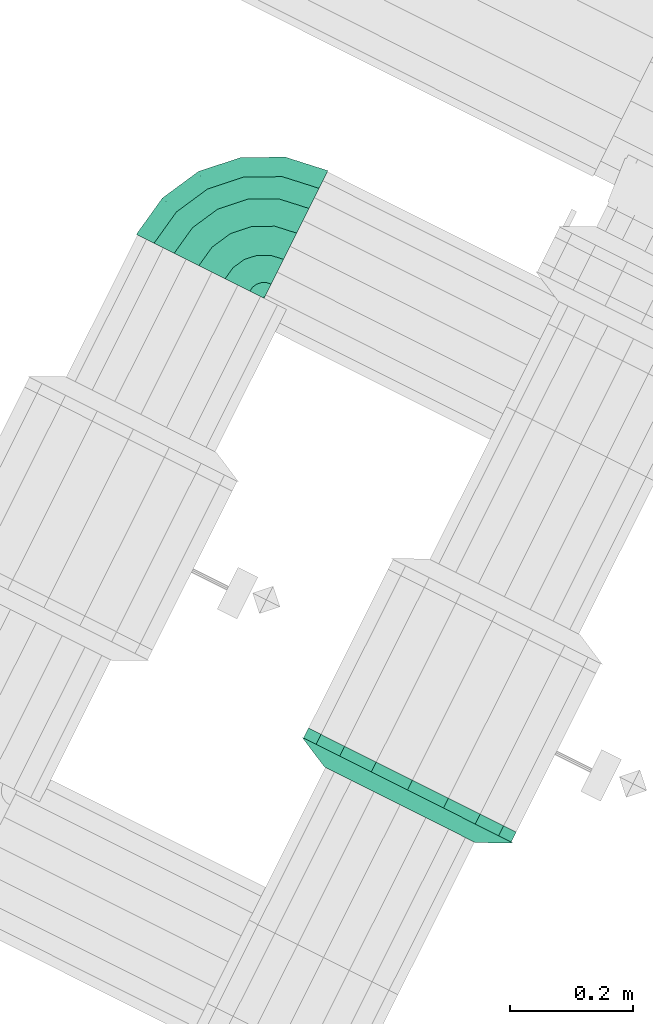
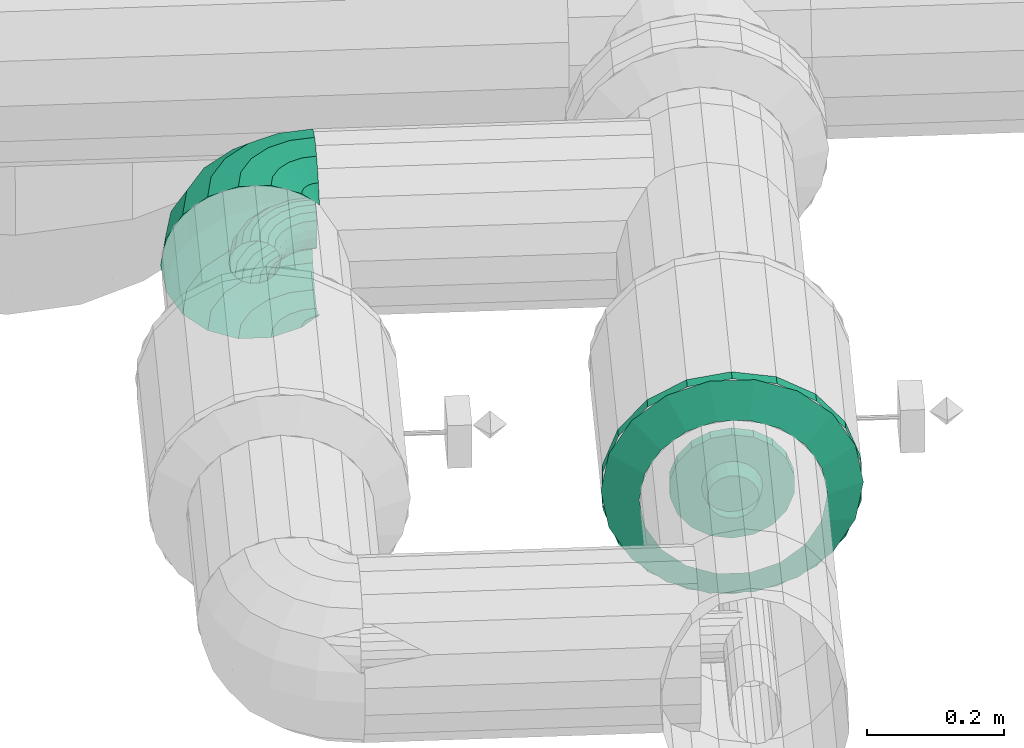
# One storey, part 40 of 152: 1 flow fitting, 1 flow segment.
"""IFC2X3 building model written with IfcOpenShell, lengths in metres."""

from ifc_helpers import new_model, si_unit, derived_unit, direction, frame, origin, place, context, subcontext, project, spatial, face_set, surface_model, source, transform, mapped, material, type_object, type_shapes, element, save


model = new_model("IFC2X3")

# Units and contexts
model_context = context("Model", 3, precision=5.2338327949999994e-05, world=origin(), true_north=direction((0.0, 1.0)))
body_context = subcontext(model_context, "Body", "Model", "MODEL_VIEW")
ifc_project = project(units=[si_unit("LENGTHUNIT", "METRE"), si_unit("AREAUNIT", "SQUARE_METRE"), si_unit("VOLUMEUNIT", "CUBIC_METRE"), si_unit("MASSUNIT", "GRAM", prefix="KILO"), si_unit("PLANEANGLEUNIT", "RADIAN"), derived_unit("THERMALTRANSMITTANCEUNIT", [(si_unit("MASSUNIT", "GRAM", prefix="KILO"), 1), (si_unit("THERMODYNAMICTEMPERATUREUNIT", "KELVIN"), -1), (si_unit("TIMEUNIT", "SECOND"), -3)])], contexts=[model_context])

# Site, building, storey
site_placement = place(None, frame((0.0, 0.0, 0.0), z_axis=(0.0, 0.0, 1.0), x_axis=(0.8939966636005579, -0.4480736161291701, 0.0)))
site = spatial("IfcSite", under=ifc_project, at=site_placement, Name="Default", CompositionType="ELEMENT")
building_placement = place(site_placement, origin())
building = spatial("IfcBuilding", under=site, at=building_placement, CompositionType="ELEMENT")
storey_placement = place(building_placement, frame((0.0, 0.0, 2.7499999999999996)))
storey = spatial("IfcBuildingStorey", under=building, at=storey_placement, Name="1. Obergeschoss", CompositionType="ELEMENT", Elevation=2.7499999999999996)

# Flow segment
ifc_material = material(Name="IfcSurfaceStyle #1741")
distribution_element_type_1 = type_object("IfcDistributionElementType", Name="Rohrbogen 257273:Rohrbogen 257273", material=ifc_material)
shared_shape_1 = source(origin(), body_context, "Body", "SurfaceModel", [
    surface_model("IfcFaceBasedSurfaceModel", [(14.36173151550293, 7.4253543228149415, 5.63564089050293), (14.355219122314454, 7.384239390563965, 5.63564089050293), (14.357514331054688, 7.384239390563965, 5.648654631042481), (14.363913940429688, 7.424645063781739, 5.648654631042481), (14.38062919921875, 7.462444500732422, 5.63564089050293), (14.382486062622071, 7.4610951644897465, 5.648654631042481), (14.410064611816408, 7.491879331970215, 5.63564089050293), (14.41141336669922, 7.490022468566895, 5.648654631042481), (14.447154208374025, 7.510777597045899, 5.63564089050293), (14.447863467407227, 7.508595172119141, 5.648654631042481), (14.488269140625, 7.517289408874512, 5.63564089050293), (14.488269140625, 7.514994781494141, 5.648654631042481), (14.370197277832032, 7.422603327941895, 5.660098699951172), (14.364120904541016, 7.384239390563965, 5.660098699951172), (14.387831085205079, 7.457211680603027, 5.660098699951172), (14.415296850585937, 7.484677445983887, 5.660098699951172), (14.449905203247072, 7.502311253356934, 5.660098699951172), (14.488269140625, 7.5083876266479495, 5.660098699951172), (14.37424354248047, 7.384239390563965, 5.668592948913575), (14.37982459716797, 7.419475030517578, 5.668592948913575), (14.396021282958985, 7.4512614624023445, 5.668592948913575), (14.421246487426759, 7.4764878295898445, 5.668592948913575), (14.453032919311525, 7.492683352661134, 5.668592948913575), (14.488269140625, 7.498264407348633, 5.668592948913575), (14.386661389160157, 7.384239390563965, 5.673112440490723), (14.391634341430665, 7.415638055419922, 5.673112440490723), (14.406067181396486, 7.443962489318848, 5.673112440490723), (14.428546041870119, 7.466441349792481, 5.673112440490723), (14.456871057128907, 7.480873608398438, 5.673112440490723), (14.488269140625, 7.4858465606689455, 5.673112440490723), (14.399876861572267, 7.384239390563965, 5.673112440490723), (14.404202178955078, 7.411554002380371, 5.673112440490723), (14.416758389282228, 7.436195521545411, 5.673112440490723), (14.436313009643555, 7.455750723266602, 5.673112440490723), (14.460954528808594, 7.468305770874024, 5.673112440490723), (14.488269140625, 7.472632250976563, 5.673112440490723), (14.412293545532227, 7.384239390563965, 5.668592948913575), (14.4160130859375, 7.4077170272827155, 5.668592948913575), (14.426804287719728, 7.428896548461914, 5.668592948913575), (14.443612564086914, 7.445704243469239, 5.668592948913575), (14.46479150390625, 7.456496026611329, 5.668592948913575), (14.488269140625, 7.460214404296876, 5.668592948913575), (14.425640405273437, 7.404588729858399, 5.660098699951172), (14.422417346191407, 7.384239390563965, 5.660098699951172), (14.434993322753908, 7.42294633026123, 5.660098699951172), (14.449562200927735, 7.4375146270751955, 5.660098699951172), (14.467919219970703, 7.446868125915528, 5.660098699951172), (14.488269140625, 7.450091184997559, 5.660098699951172), (14.431923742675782, 7.402546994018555, 5.648654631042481), (14.429023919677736, 7.384239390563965, 5.648654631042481), (14.440339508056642, 7.419062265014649, 5.648654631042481), (14.453445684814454, 7.432169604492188, 5.648654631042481), (14.469960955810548, 7.440584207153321, 5.648654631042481), (14.488269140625, 7.443484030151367, 5.648654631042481), (14.43410616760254, 7.401837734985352, 5.63564089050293), (14.43131912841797, 7.384239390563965, 5.63564089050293), (14.442195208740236, 7.417713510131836, 5.63564089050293), (14.454794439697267, 7.430312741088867, 5.63564089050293), (14.47067021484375, 7.4384017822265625, 5.63564089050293), (14.488269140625, 7.441189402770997, 5.63564089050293), (14.429023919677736, 7.384239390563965, 5.622627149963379), (14.431923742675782, 7.402546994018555, 5.622627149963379), (14.440339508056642, 7.419062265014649, 5.622627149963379), (14.453445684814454, 7.432169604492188, 5.622627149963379), (14.469960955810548, 7.440584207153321, 5.622627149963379), (14.488269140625, 7.443484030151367, 5.622627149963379), (14.422417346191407, 7.384239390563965, 5.6111824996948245), (14.425640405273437, 7.404588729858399, 5.6111824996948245), (14.434993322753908, 7.42294633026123, 5.6111824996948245), (14.449562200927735, 7.4375146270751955, 5.6111824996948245), (14.467919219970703, 7.446868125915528, 5.6111824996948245), (14.488269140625, 7.450091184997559, 5.6111824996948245), (14.4160130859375, 7.4077170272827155, 5.602688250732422), (14.412293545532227, 7.384239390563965, 5.602688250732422), (14.426804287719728, 7.428896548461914, 5.602688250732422), (14.443612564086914, 7.445704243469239, 5.602688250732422), (14.46479150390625, 7.456496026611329, 5.602688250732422), (14.488269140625, 7.460214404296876, 5.602688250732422), (14.404202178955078, 7.411554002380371, 5.598168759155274), (14.399876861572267, 7.384239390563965, 5.598168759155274), (14.416758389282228, 7.436195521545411, 5.598168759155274), (14.436313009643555, 7.455750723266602, 5.598168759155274), (14.460954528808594, 7.468305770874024, 5.598168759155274), (14.488269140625, 7.472632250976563, 5.598168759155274), (14.391634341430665, 7.415638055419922, 5.598168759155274), (14.386661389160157, 7.384239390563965, 5.598168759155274), (14.406067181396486, 7.443962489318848, 5.598168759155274), (14.428546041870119, 7.466441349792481, 5.598168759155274), (14.456871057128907, 7.480873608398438, 5.598168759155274), (14.488269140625, 7.4858465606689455, 5.598168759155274), (14.37424354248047, 7.384239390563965, 5.602688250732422), (14.37982459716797, 7.419475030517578, 5.602688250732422), (14.396021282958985, 7.4512614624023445, 5.602688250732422), (14.421246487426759, 7.4764878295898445, 5.602688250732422), (14.453032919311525, 7.492683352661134, 5.602688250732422), (14.488269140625, 7.498264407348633, 5.602688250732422), (14.370197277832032, 7.422603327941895, 5.6111824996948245), (14.364120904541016, 7.384239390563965, 5.6111824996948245), (14.387831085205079, 7.457211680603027, 5.6111824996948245), (14.415296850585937, 7.484677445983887, 5.6111824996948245), (14.449905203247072, 7.502311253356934, 5.6111824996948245), (14.488269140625, 7.5083876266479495, 5.6111824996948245), (14.357514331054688, 7.384239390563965, 5.622627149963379), (14.363913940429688, 7.424645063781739, 5.622627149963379), (14.382486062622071, 7.4610951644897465, 5.622627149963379), (14.41141336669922, 7.490022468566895, 5.622627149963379), (14.447863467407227, 7.508595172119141, 5.622627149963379), (14.488269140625, 7.514994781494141, 5.622627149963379), (14.266625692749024, 7.4562559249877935, 5.63564089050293), (14.255219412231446, 7.384239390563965, 5.63564089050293), (14.274543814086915, 7.45368282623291, 5.68285661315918), (14.263544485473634, 7.384239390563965, 5.68285661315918), (14.299727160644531, 7.521222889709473, 5.63564089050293), (14.306462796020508, 7.516329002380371, 5.68285661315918), (14.351285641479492, 7.572780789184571, 5.63564089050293), (14.356179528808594, 7.566045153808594, 5.68285661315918), (14.416252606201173, 7.605882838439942, 5.63564089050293), (14.418825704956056, 7.597965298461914, 5.68285661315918), (14.488269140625, 7.61728911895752, 5.63564089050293), (14.488269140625, 7.608964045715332, 5.68285661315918), (14.287516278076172, 7.384239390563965, 5.724377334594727), (14.297342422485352, 7.446275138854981, 5.724377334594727), (14.325856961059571, 7.502238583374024, 5.724377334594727), (14.370269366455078, 7.546651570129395, 5.724377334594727), (14.426233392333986, 7.5751661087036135, 5.724377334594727), (14.488269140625, 7.58499167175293, 5.724377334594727), (14.324244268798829, 7.384239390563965, 5.755195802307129), (14.332271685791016, 7.434925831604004, 5.755195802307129), (14.355570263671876, 7.480650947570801, 5.755195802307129), (14.391857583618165, 7.51693826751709, 5.755195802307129), (14.437582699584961, 7.540236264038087, 5.755195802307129), (14.488269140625, 7.548264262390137, 5.755195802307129), (14.369297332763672, 7.384239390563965, 5.77159363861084), (14.375120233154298, 7.421004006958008, 5.77159363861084), (14.39201803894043, 7.454169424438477, 5.77159363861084), (14.418338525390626, 7.480489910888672, 5.77159363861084), (14.45150510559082, 7.497388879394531, 5.77159363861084), (14.488269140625, 7.503211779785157, 5.77159363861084), (14.417240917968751, 7.384239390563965, 5.77159363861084), (14.420717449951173, 7.406188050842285, 5.77159363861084), (14.430806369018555, 7.425988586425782, 5.77159363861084), (14.446520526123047, 7.441702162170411, 5.77159363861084), (14.466320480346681, 7.451791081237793, 5.77159363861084), (14.488269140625, 7.455267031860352, 5.77159363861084), (14.462293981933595, 7.384239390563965, 5.755195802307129), (14.463564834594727, 7.3922662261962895, 5.755195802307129), (14.467255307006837, 7.399507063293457, 5.755195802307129), (14.473001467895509, 7.405253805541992, 5.755195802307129), (14.48024288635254, 7.408943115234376, 5.755195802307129), (14.488269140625, 7.410214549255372, 5.755195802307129), (14.488269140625, 7.384239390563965, 5.733400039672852), (14.488269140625, 7.386673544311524, 5.733723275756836), (14.488269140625, 7.384239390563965, 5.537881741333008), (14.488269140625, 7.386673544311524, 5.537558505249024), (14.463564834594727, 7.3922662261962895, 5.51608597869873), (14.462293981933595, 7.384239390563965, 5.51608597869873), (14.467255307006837, 7.399507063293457, 5.51608597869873), (14.473001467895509, 7.405253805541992, 5.51608597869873), (14.48024288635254, 7.408943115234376, 5.51608597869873), (14.488269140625, 7.410214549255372, 5.51608597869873), (14.420717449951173, 7.406188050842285, 5.49968814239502), (14.417240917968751, 7.384239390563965, 5.49968814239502), (14.430806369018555, 7.425988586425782, 5.49968814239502), (14.446520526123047, 7.441702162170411, 5.49968814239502), (14.466320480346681, 7.451791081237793, 5.49968814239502), (14.488269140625, 7.455267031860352, 5.49968814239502), (14.375120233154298, 7.421004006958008, 5.49968814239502), (14.369297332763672, 7.384239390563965, 5.49968814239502), (14.39201803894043, 7.454169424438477, 5.49968814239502), (14.418338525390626, 7.480489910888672, 5.49968814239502), (14.45150510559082, 7.497388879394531, 5.49968814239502), (14.488269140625, 7.503211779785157, 5.49968814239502), (14.332271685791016, 7.434925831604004, 5.51608597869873), (14.324244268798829, 7.384239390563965, 5.51608597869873), (14.355570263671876, 7.480650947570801, 5.51608597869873), (14.391857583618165, 7.51693826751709, 5.51608597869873), (14.437582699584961, 7.540236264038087, 5.51608597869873), (14.488269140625, 7.548264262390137, 5.51608597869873), (14.297342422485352, 7.446275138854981, 5.54690386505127), (14.287516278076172, 7.384239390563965, 5.54690386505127), (14.325856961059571, 7.502238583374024, 5.54690386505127), (14.370269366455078, 7.546651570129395, 5.54690386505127), (14.426233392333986, 7.5751661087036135, 5.54690386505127), (14.488269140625, 7.58499167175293, 5.54690386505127), (14.274543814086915, 7.45368282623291, 5.58842516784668), (14.263544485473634, 7.384239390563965, 5.58842516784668), (14.306462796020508, 7.516329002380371, 5.58842516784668), (14.356179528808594, 7.566045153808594, 5.58842516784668), (14.418825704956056, 7.597965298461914, 5.58842516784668), (14.488269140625, 7.608964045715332, 5.58842516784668)], [face_set([[[0, 1, 2]], [[2, 3, 0]], [[4, 0, 3]], [[3, 5, 4]], [[6, 4, 5]], [[5, 7, 6]], [[8, 6, 7]], [[7, 9, 8]], [[10, 8, 9]], [[9, 11, 10]], [[3, 2, 12]], [[13, 12, 2]], [[5, 3, 14]], [[12, 14, 3]], [[7, 5, 15]], [[14, 15, 5]], [[9, 7, 16]], [[15, 16, 7]], [[11, 9, 17]], [[16, 17, 9]], [[12, 13, 18]], [[18, 19, 12]], [[14, 12, 19]], [[19, 20, 14]], [[15, 14, 21]], [[20, 21, 14]], [[16, 15, 22]], [[21, 22, 15]], [[17, 16, 22]], [[22, 23, 17]], [[19, 18, 24]], [[24, 25, 19]], [[20, 19, 25]], [[25, 26, 20]], [[21, 20, 27]], [[26, 27, 20]], [[22, 21, 28]], [[27, 28, 21]], [[23, 22, 29]], [[28, 29, 22]], [[25, 24, 30]], [[30, 31, 25]], [[26, 25, 31]], [[31, 32, 26]], [[27, 26, 32]], [[32, 33, 27]], [[28, 27, 33]], [[33, 34, 28]], [[29, 28, 34]], [[34, 35, 29]], [[31, 30, 36]], [[36, 37, 31]], [[32, 31, 38]], [[37, 38, 31]], [[33, 32, 39]], [[38, 39, 32]], [[34, 33, 40]], [[39, 40, 33]], [[35, 34, 41]], [[40, 41, 34]], [[37, 36, 42]], [[43, 42, 36]], [[38, 37, 42]], [[42, 44, 38]], [[39, 38, 44]], [[44, 45, 39]], [[40, 39, 45]], [[45, 46, 40]], [[41, 40, 46]], [[46, 47, 41]], [[42, 43, 48]], [[49, 48, 43]], [[44, 42, 48]], [[48, 50, 44]], [[45, 44, 51]], [[50, 51, 44]], [[46, 45, 52]], [[51, 52, 45]], [[47, 46, 53]], [[52, 53, 46]], [[48, 49, 54]], [[55, 54, 49]], [[50, 48, 54]], [[54, 56, 50]], [[51, 50, 56]], [[56, 57, 51]], [[52, 51, 57]], [[57, 58, 52]], [[53, 52, 58]], [[58, 59, 53]], [[54, 55, 60]], [[60, 61, 54]], [[56, 54, 62]], [[61, 62, 54]], [[57, 56, 63]], [[62, 63, 56]], [[58, 57, 64]], [[63, 64, 57]], [[59, 58, 65]], [[64, 65, 58]], [[61, 60, 66]], [[66, 67, 61]], [[62, 61, 68]], [[67, 68, 61]], [[63, 62, 69]], [[68, 69, 62]], [[64, 63, 69]], [[69, 70, 64]], [[65, 64, 70]], [[70, 71, 65]], [[67, 66, 72]], [[73, 72, 66]], [[68, 67, 72]], [[72, 74, 68]], [[69, 68, 75]], [[74, 75, 68]], [[70, 69, 76]], [[75, 76, 69]], [[71, 70, 77]], [[76, 77, 70]], [[72, 73, 78]], [[79, 78, 73]], [[74, 72, 78]], [[78, 80, 74]], [[75, 74, 80]], [[80, 81, 75]], [[76, 75, 81]], [[81, 82, 76]], [[77, 76, 82]], [[82, 83, 77]], [[78, 79, 84]], [[85, 84, 79]], [[80, 78, 86]], [[84, 86, 78]], [[81, 80, 87]], [[86, 87, 80]], [[82, 81, 88]], [[87, 88, 81]], [[83, 82, 89]], [[88, 89, 82]], [[84, 85, 90]], [[90, 91, 84]], [[86, 84, 91]], [[91, 92, 86]], [[87, 86, 92]], [[92, 93, 87]], [[88, 87, 93]], [[93, 94, 88]], [[89, 88, 94]], [[94, 95, 89]], [[91, 90, 96]], [[97, 96, 90]], [[92, 91, 98]], [[96, 98, 91]], [[93, 92, 98]], [[98, 99, 93]], [[94, 93, 99]], [[99, 100, 94]], [[95, 94, 101]], [[100, 101, 94]], [[96, 97, 102]], [[102, 103, 96]], [[98, 96, 103]], [[103, 104, 98]], [[99, 98, 104]], [[104, 105, 99]], [[100, 99, 105]], [[105, 106, 100]], [[101, 100, 106]], [[106, 107, 101]], [[103, 102, 0]], [[1, 0, 102]], [[104, 103, 4]], [[0, 4, 103]], [[105, 104, 6]], [[4, 6, 104]], [[106, 105, 8]], [[6, 8, 105]], [[107, 106, 10]], [[8, 10, 106]], [[108, 109, 110]], [[111, 110, 109]], [[112, 108, 113]], [[110, 113, 108]], [[114, 112, 115]], [[113, 115, 112]], [[116, 114, 117]], [[115, 117, 114]], [[118, 116, 119]], [[117, 119, 116]], [[110, 111, 120]], [[120, 121, 110]], [[113, 110, 121]], [[121, 122, 113]], [[115, 113, 122]], [[122, 123, 115]], [[117, 115, 123]], [[123, 124, 117]], [[119, 117, 124]], [[124, 125, 119]], [[121, 120, 126]], [[126, 127, 121]], [[122, 121, 127]], [[127, 128, 122]], [[123, 122, 129]], [[128, 129, 122]], [[124, 123, 130]], [[129, 130, 123]], [[125, 124, 131]], [[130, 131, 124]], [[127, 126, 132]], [[132, 133, 127]], [[128, 127, 133]], [[133, 134, 128]], [[129, 128, 135]], [[134, 135, 128]], [[130, 129, 136]], [[135, 136, 129]], [[131, 130, 137]], [[136, 137, 130]], [[133, 132, 138]], [[138, 139, 133]], [[134, 133, 139]], [[139, 140, 134]], [[135, 134, 141]], [[140, 141, 134]], [[136, 135, 142]], [[141, 142, 135]], [[137, 136, 142]], [[142, 143, 137]], [[139, 138, 144]], [[144, 145, 139]], [[140, 139, 146]], [[145, 146, 139]], [[141, 140, 147]], [[146, 147, 140]], [[142, 141, 148]], [[147, 148, 141]], [[143, 142, 148]], [[148, 149, 143]], [[150, 145, 151]], [[150, 151, 144]], [[145, 144, 151]], [[146, 145, 150]], [[147, 146, 150]], [[148, 147, 150]], [[149, 148, 150]], [[152, 153, 154]], [[155, 154, 153]], [[153, 152, 155]], [[154, 156, 152]], [[152, 156, 157]], [[157, 158, 152]], [[158, 159, 152]], [[154, 155, 160]], [[161, 160, 155]], [[156, 154, 160]], [[160, 162, 156]], [[157, 156, 162]], [[162, 163, 157]], [[158, 157, 163]], [[163, 164, 158]], [[159, 158, 165]], [[164, 165, 158]], [[160, 161, 166]], [[167, 166, 161]], [[162, 160, 168]], [[166, 168, 160]], [[163, 162, 169]], [[168, 169, 162]], [[164, 163, 169]], [[169, 170, 164]], [[165, 164, 171]], [[170, 171, 164]], [[166, 167, 172]], [[173, 172, 167]], [[168, 166, 172]], [[172, 174, 168]], [[169, 168, 174]], [[174, 175, 169]], [[170, 169, 175]], [[175, 176, 170]], [[171, 170, 176]], [[176, 177, 171]], [[172, 173, 178]], [[179, 178, 173]], [[174, 172, 180]], [[178, 180, 172]], [[175, 174, 180]], [[180, 181, 175]], [[176, 175, 181]], [[181, 182, 176]], [[177, 176, 183]], [[182, 183, 176]], [[178, 179, 184]], [[185, 184, 179]], [[180, 178, 184]], [[184, 186, 180]], [[181, 180, 186]], [[186, 187, 181]], [[182, 181, 188]], [[187, 188, 181]], [[183, 182, 189]], [[188, 189, 182]], [[184, 185, 109]], [[109, 108, 184]], [[186, 184, 108]], [[108, 112, 186]], [[187, 186, 112]], [[112, 114, 187]], [[188, 187, 114]], [[114, 116, 188]], [[189, 188, 116]], [[116, 118, 189]]])]),
])
type_shapes(distribution_element_type_1, [shared_shape_1])
flow_segment_placement = place(storey_placement, frame((0.0, 0.0, -2.7499999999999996)))
element("IfcFlowSegment", 1, at=flow_segment_placement, inside=storey, type_object=distribution_element_type_1, material=ifc_material, Name="Rohrbogen", ObjectType="Rohrbogen", context=body_context, shape_type="MappedRepresentation", body=[
    mapped(shared_shape_1, transform((0.0, 0.0, 0.0), scale=1.0)),
])

# Flow fitting
distribution_element_type_2 = type_object("IfcDistributionElementType", Name="Flansch 259232:Flansch 259232", material=ifc_material)
shared_shape_2 = source(origin(), body_context, "Body", "SurfaceModel", [
    surface_model("IfcFaceBasedSurfaceModel", [(15.057242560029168, 6.7894947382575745, 5.7281407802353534), (15.025605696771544, 6.7894947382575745, 5.722562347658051), (15.025605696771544, 6.771494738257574, 5.722562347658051), (15.057242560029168, 6.771494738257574, 5.7281407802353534), (14.997784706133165, 6.7894947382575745, 5.70649989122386), (14.997784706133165, 6.771494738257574, 5.70649989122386), (14.977135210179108, 6.7894947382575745, 5.6818907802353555), (14.977135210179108, 6.771494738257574, 5.6818907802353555), (14.966147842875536, 6.7894947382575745, 5.651703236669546), (14.966147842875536, 6.771494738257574, 5.651703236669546), (14.966147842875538, 6.7894947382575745, 5.619578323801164), (14.966147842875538, 6.771494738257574, 5.619578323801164), (14.977135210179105, 6.7894947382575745, 5.589390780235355), (14.977135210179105, 6.771494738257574, 5.589390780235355), (14.997784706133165, 6.7894947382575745, 5.56478166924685), (14.997784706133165, 6.771494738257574, 5.56478166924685), (15.025605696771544, 6.7894947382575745, 5.548719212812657), (15.025605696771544, 6.771494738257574, 5.548719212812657), (15.057242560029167, 6.7894947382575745, 5.543140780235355), (15.057242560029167, 6.771494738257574, 5.543140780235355), (15.088879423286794, 6.7894947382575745, 5.548719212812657), (15.088879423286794, 6.771494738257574, 5.548719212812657), (15.116700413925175, 6.7894947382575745, 5.564781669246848), (15.116700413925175, 6.771494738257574, 5.564781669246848), (15.13734990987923, 6.7894947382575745, 5.589390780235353), (15.13734990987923, 6.771494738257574, 5.589390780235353), (15.148337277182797, 6.7894947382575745, 5.619578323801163), (15.148337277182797, 6.771494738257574, 5.619578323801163), (15.148337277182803, 6.7894947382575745, 5.651703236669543), (15.148337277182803, 6.771494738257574, 5.651703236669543), (15.13734990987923, 6.7894947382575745, 5.681890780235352), (15.13734990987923, 6.771494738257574, 5.681890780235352), (15.116700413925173, 6.7894947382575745, 5.706499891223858), (15.116700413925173, 6.771494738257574, 5.706499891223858), (15.088879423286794, 6.7894947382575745, 5.722562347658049), (15.088879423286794, 6.771494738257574, 5.722562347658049), (15.057242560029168, 6.771494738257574, 5.635640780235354), (15.012242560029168, 6.771494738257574, 5.635640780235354), (15.014956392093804, 6.771494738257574, 5.620249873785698), (15.021487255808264, 6.744494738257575, 5.622626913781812), (15.019192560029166, 6.744494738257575, 5.635640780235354), (15.022770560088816, 6.771494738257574, 5.606715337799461), (15.028094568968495, 6.744494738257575, 5.611182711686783), (15.03474256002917, 6.771494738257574, 5.596669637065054), (15.03821756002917, 6.744494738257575, 5.602688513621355), (15.049428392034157, 6.771494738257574, 5.591324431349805), (15.050635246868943, 6.744494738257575, 5.598168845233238), (15.065056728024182, 6.771494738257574, 5.591324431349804), (15.063849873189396, 6.744494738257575, 5.598168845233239), (15.079742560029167, 6.771494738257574, 5.596669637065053), (15.076267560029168, 6.744494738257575, 5.602688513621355), (15.091714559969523, 6.771494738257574, 5.606715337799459), (15.086390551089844, 6.744494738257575, 5.61118271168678), (15.099528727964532, 6.771494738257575, 5.6202498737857), (15.092997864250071, 6.7444947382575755, 5.622626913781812), (15.102242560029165, 6.771494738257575, 5.635640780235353), (15.095292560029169, 6.7444947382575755, 5.635640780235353), (15.09952872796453, 6.771494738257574, 5.651031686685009), (15.092997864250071, 6.744494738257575, 5.648654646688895), (15.091714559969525, 6.771494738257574, 5.6645662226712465), (15.086390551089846, 6.744494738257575, 5.660098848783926), (15.079742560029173, 6.771494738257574, 5.674611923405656), (15.07626756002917, 6.744494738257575, 5.668593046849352), (15.06505672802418, 6.771494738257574, 5.679957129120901), (15.063849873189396, 6.744494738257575, 5.673112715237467), (15.049428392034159, 6.771494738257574, 5.679957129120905), (15.050635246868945, 6.744494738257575, 5.673112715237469), (15.03474256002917, 6.771494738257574, 5.674611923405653), (15.03821756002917, 6.744494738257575, 5.668593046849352), (15.022770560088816, 6.771494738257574, 5.664566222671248), (15.028094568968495, 6.744494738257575, 5.660098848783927), (15.014956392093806, 6.771494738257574, 5.651031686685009), (15.021487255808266, 6.744494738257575, 5.648654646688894), (15.057242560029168, 6.7894947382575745, 5.828140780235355), (14.991403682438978, 6.7894947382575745, 5.816531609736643), (14.991403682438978, 6.771494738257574, 5.816531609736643), (15.057242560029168, 6.771494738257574, 5.828140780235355), (14.93350594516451, 6.7894947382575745, 5.783104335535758), (14.93350594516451, 6.771494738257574, 5.783104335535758), (14.890532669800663, 6.7894947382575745, 5.731890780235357), (14.890532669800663, 6.771494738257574, 5.731890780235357), (14.867667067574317, 6.7894947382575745, 5.66906805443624), (14.867667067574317, 6.771494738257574, 5.66906805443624), (14.86766706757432, 6.7894947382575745, 5.602213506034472), (14.86766706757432, 6.771494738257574, 5.602213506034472), (14.890532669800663, 6.7894947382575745, 5.539390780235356), (14.890532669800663, 6.771494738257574, 5.539390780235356), (14.933505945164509, 6.7894947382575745, 5.488177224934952), (14.933505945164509, 6.771494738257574, 5.488177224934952), (14.991403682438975, 6.7894947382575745, 5.454749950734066), (14.991403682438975, 6.771494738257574, 5.454749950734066), (15.057242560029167, 6.7894947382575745, 5.443140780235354), (15.057242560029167, 6.771494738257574, 5.443140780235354), (15.123081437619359, 6.7894947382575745, 5.454749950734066), (15.123081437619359, 6.771494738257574, 5.454749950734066), (15.18097917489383, 6.7894947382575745, 5.488177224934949), (15.18097917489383, 6.771494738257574, 5.488177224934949), (15.223952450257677, 6.7894947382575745, 5.539390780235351), (15.223952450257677, 6.771494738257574, 5.539390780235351), (15.24681805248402, 6.7894947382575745, 5.602213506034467), (15.24681805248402, 6.771494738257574, 5.602213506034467), (15.24681805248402, 6.7894947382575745, 5.669068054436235), (15.24681805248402, 6.771494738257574, 5.669068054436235), (15.223952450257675, 6.7894947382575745, 5.731890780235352), (15.223952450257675, 6.771494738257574, 5.731890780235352), (15.18097917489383, 6.7894947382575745, 5.783104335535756), (15.18097917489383, 6.771494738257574, 5.783104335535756), (15.123081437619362, 6.7894947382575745, 5.816531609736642), (15.123081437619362, 6.771494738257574, 5.816531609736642), (14.864742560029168, 6.771494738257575, 5.635640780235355), (14.87635173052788, 6.771494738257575, 5.569801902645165), (14.927517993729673, 6.7444947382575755, 5.588424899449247), (14.919192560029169, 6.7444947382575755, 5.635640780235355), (14.909779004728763, 6.771494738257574, 5.511904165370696), (14.951490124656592, 6.744494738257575, 5.546903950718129), (14.960992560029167, 6.771494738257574, 5.468930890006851), (14.988217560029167, 6.744494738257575, 5.516085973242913), (15.023815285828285, 6.771494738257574, 5.446065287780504), (15.033270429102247, 6.744494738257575, 5.499688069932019), (15.090669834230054, 6.771494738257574, 5.446065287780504), (15.08121469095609, 6.744494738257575, 5.499688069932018), (15.153492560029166, 6.771494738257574, 5.468930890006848), (15.126267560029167, 6.744494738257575, 5.5160859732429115), (15.20470611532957, 6.771494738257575, 5.5119041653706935), (15.162994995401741, 6.7444947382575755, 5.546903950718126), (15.238133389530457, 6.771494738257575, 5.56980190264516), (15.186967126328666, 6.7444947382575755, 5.588424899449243), (15.24974256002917, 6.771494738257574, 5.6356407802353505), (15.195292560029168, 6.744494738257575, 5.635640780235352), (15.238133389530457, 6.771494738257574, 5.701479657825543), (15.186967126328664, 6.744494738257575, 5.682856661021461), (15.204706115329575, 6.771494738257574, 5.759377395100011), (15.162994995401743, 6.744494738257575, 5.724377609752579), (15.15349256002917, 6.771494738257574, 5.8023506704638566), (15.126267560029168, 6.744494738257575, 5.755195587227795), (15.090669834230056, 6.771494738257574, 5.825216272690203), (15.081214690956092, 6.744494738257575, 5.771593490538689), (15.023815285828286, 6.771494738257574, 5.825216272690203), (15.03327042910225, 6.744494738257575, 5.771593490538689), (14.960992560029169, 6.771494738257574, 5.802350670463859), (14.98821756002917, 6.744494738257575, 5.755195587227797), (14.909779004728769, 6.771494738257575, 5.759377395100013), (14.951490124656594, 6.7444947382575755, 5.724377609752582), (14.876351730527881, 6.771494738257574, 5.701479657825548), (14.927517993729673, 6.744494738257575, 5.682856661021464)], [face_set([[[0, 1, 2, 3]], [[1, 4, 5, 2]], [[4, 6, 7, 5]], [[6, 8, 9, 7]], [[8, 10, 11, 9]], [[10, 12, 13, 11]], [[12, 14, 15, 13]], [[14, 16, 17, 15]], [[16, 18, 19, 17]], [[18, 20, 21, 19]], [[20, 22, 23, 21]], [[22, 24, 25, 23]], [[24, 26, 27, 25]], [[26, 28, 29, 27]], [[28, 30, 31, 29]], [[30, 32, 33, 31]], [[32, 34, 35, 33]], [[34, 0, 3, 35]], [[36, 35, 3]], [[36, 33, 35]], [[36, 31, 33]], [[36, 29, 31]], [[36, 27, 29]], [[36, 25, 27]], [[36, 23, 25]], [[36, 21, 23]], [[36, 19, 21]], [[36, 17, 19]], [[36, 15, 17]], [[36, 13, 15]], [[36, 11, 13]], [[36, 9, 11]], [[36, 7, 9]], [[36, 5, 7]], [[36, 2, 5]], [[36, 3, 2]], [[37, 38, 39, 40]], [[38, 41, 42, 39]], [[41, 43, 44, 42]], [[43, 45, 46, 44]], [[45, 47, 48, 46]], [[47, 49, 50, 48]], [[49, 51, 52, 50]], [[51, 53, 54, 52]], [[53, 55, 56, 54]], [[55, 57, 58, 56]], [[57, 59, 60, 58]], [[59, 61, 62, 60]], [[61, 63, 64, 62]], [[63, 65, 66, 64]], [[65, 67, 68, 66]], [[67, 69, 70, 68]], [[69, 71, 72, 70]], [[71, 37, 40, 72]], [[73, 74, 75, 76]], [[74, 77, 78, 75]], [[77, 79, 80, 78]], [[79, 81, 82, 80]], [[81, 83, 84, 82]], [[83, 85, 86, 84]], [[85, 87, 88, 86]], [[87, 89, 90, 88]], [[89, 91, 92, 90]], [[91, 93, 94, 92]], [[93, 95, 96, 94]], [[95, 97, 98, 96]], [[97, 99, 100, 98]], [[99, 101, 102, 100]], [[101, 103, 104, 102]], [[103, 105, 106, 104]], [[105, 107, 108, 106]], [[107, 73, 76, 108]], [[109, 110, 111, 112]], [[110, 113, 114, 111]], [[113, 115, 116, 114]], [[115, 117, 118, 116]], [[117, 119, 120, 118]], [[119, 121, 122, 120]], [[121, 123, 124, 122]], [[123, 125, 126, 124]], [[125, 127, 128, 126]], [[127, 129, 130, 128]], [[129, 131, 132, 130]], [[131, 133, 134, 132]], [[133, 135, 136, 134]], [[135, 137, 138, 136]], [[137, 139, 140, 138]], [[139, 141, 142, 140]], [[141, 143, 144, 142]], [[143, 109, 112, 144]]])]),
])
type_shapes(distribution_element_type_2, [shared_shape_2])
flow_fitting_placement = place(storey_placement, frame((0.0, 0.0, -2.7499999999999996)))
element("IfcFlowFitting", 2, at=flow_fitting_placement, inside=storey, type_object=distribution_element_type_2, material=ifc_material, Name="Flansch", ObjectType="Flansch", context=body_context, shape_type="MappedRepresentation", body=[
    mapped(shared_shape_2, transform((0.0, 0.0, 0.0), scale=1.0)),
])

save(model, "model.ifc")
